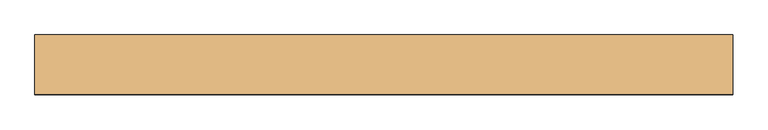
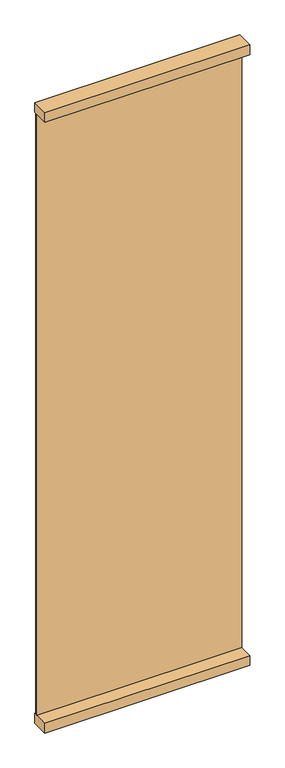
"""IFC4 building model written with IfcOpenShell, lengths in millimetres: door geometry, Mobiliário_Mobiliário de Escritório_Painel Vidro Simples - DVST e DVSL (Complementar)_Marelli : DV1ST - 10mm - Temperado."""

from ifc_helpers import new_model, si_unit, frame, origin, origin_with_axes, place, context, project, spatial, polyline, outline, extrude, source, transform, mapped, element, save


def door_9f8e43f1(model_context):
    return source(origin(), model_context, "Body", "SweptSolid", [
        extrude(outline(polyline([(500.0, 42.5), (500.0, -42.5), (-500.0, -42.5), (-500.0, 42.5), (500.0, 42.5)])), origin_with_axes(), (0.0, 0.0, 1.0), 50.0),
        extrude(outline(polyline([(500.0, 42.5), (500.0, -42.5), (-500.0, -42.5), (-500.0, 42.5), (500.0, 42.5)])), frame((0.0, 0.0, 3150.0), z_axis=(0.0, 0.0, 1.0), x_axis=(1.0, 0.0, 0.0)), (0.0, 0.0, 1.0), 50.0),
        extrude(outline(polyline([(500.0, 35.1), (500.0, 25.1), (-500.0, 25.1), (-500.0, 35.1), (500.0, 35.1)])), frame((0.0, 0.0, 50.0), z_axis=(0.0, 0.0, 1.0), x_axis=(1.0, 0.0, 0.0)), (0.0, 0.0, 1.0), 3100.0),
    ])


if __name__ == "__main__":
    model = new_model("IFC4")
    model_context = context("Model", 3, world=origin())
    ifc_project = project(units=[si_unit("LENGTHUNIT", "METRE", prefix="MILLI")], contexts=[model_context])
    site = spatial("IfcSite", under=ifc_project)
    building = spatial("IfcBuilding", under=site)
    placement = place(None, origin())
    door_shape = door_9f8e43f1(model_context)
    element("IfcDoor", 1, ObjectType="Mobiliário_Mobiliário de Escritório_Painel Vidro Simples - DVST e DVSL (Complementar)_Marelli : DV1ST - 10mm - Temperado", at=placement, inside=building, context=model_context, shape_type="MappedRepresentation", body=[
        mapped(door_shape, transform((0.0, 0.0, 0.0), x_axis=(1.0, 0.0, 0.0), y_axis=(0.0, 1.0, 0.0), z_axis=(0.0, 0.0, 1.0))),
    ])
    save(model, "model.ifc")
